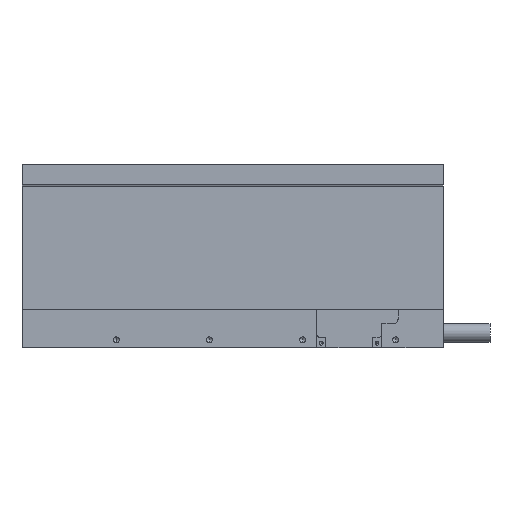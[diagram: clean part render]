
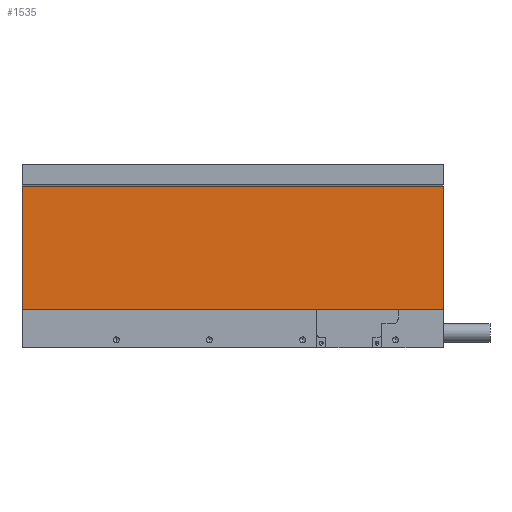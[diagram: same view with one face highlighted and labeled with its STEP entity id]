
A CAD part, left-side view. The second image highlights one B-rep face of the part: STEP entity #1535.
In plain terms, the highlighted planar face has unit normal (-1, 0, 0).
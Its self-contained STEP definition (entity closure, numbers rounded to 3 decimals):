
#12 = PLANE ( 'NONE',  #1249 ) ;
#71 = CARTESIAN_POINT ( 'NONE',  ( -3.6, 181., -62.6 ) ) ;
#84 = LINE ( 'NONE', #3300, #2502 ) ;
#173 = ORIENTED_EDGE ( 'NONE', *, *, #1194, .F. ) ;
#192 = VECTOR ( 'NONE', #2092, 1000. ) ;
#390 = CARTESIAN_POINT ( 'NONE',  ( -3.6, 181., -62.6 ) ) ;
#530 = DIRECTION ( 'NONE',  ( 0., -1., 0. ) ) ;
#641 = DIRECTION ( 'NONE',  ( 1., 0., 0. ) ) ;
#1194 = EDGE_CURVE ( 'NONE', #2426, #2874, #3960, .T. ) ;
#1203 = DIRECTION ( 'NONE',  ( 0., 0., -1. ) ) ;
#1249 = AXIS2_PLACEMENT_3D ( 'NONE', #2457, #641, #1203 ) ;
#1314 = DIRECTION ( 'NONE',  ( 0., -1., 0. ) ) ;
#1535 = ADVANCED_FACE ( 'NONE', ( #2166 ), #12, .F. ) ;
#1543 = VERTEX_POINT ( 'NONE', #1843 ) ;
#1727 = EDGE_CURVE ( 'NONE', #2426, #2639, #2840, .T. ) ;
#1734 = CARTESIAN_POINT ( 'NONE',  ( -3.6, 0., -62.6 ) ) ;
#1835 = LINE ( 'NONE', #1734, #192 ) ;
#1843 = CARTESIAN_POINT ( 'NONE',  ( -3.6, 0., -9.5 ) ) ;
#1949 = EDGE_CURVE ( 'NONE', #2874, #1543, #84, .T. ) ;
#2012 = EDGE_LOOP ( 'NONE', ( #3831, #3037, #173, #2578 ) ) ;
#2092 = DIRECTION ( 'NONE',  ( 0., 0., 1. ) ) ;
#2166 = FACE_OUTER_BOUND ( 'NONE', #2012, .T. ) ;
#2426 = VERTEX_POINT ( 'NONE', #2852 ) ;
#2453 = VECTOR ( 'NONE', #1314, 1000. ) ;
#2457 = CARTESIAN_POINT ( 'NONE',  ( -3.6, 181., -62.6 ) ) ;
#2502 = VECTOR ( 'NONE', #530, 1000. ) ;
#2578 = ORIENTED_EDGE ( 'NONE', *, *, #1727, .T. ) ;
#2639 = VERTEX_POINT ( 'NONE', #3902 ) ;
#2814 = CARTESIAN_POINT ( 'NONE',  ( -3.6, 181., -9.5 ) ) ;
#2840 = LINE ( 'NONE', #390, #2453 ) ;
#2852 = CARTESIAN_POINT ( 'NONE',  ( -3.6, 181., -62.6 ) ) ;
#2874 = VERTEX_POINT ( 'NONE', #2814 ) ;
#3037 = ORIENTED_EDGE ( 'NONE', *, *, #1949, .F. ) ;
#3145 = VECTOR ( 'NONE', #3748, 1000. ) ;
#3300 = CARTESIAN_POINT ( 'NONE',  ( -3.6, 181., -9.5 ) ) ;
#3748 = DIRECTION ( 'NONE',  ( 0., 0., 1. ) ) ;
#3811 = EDGE_CURVE ( 'NONE', #2639, #1543, #1835, .T. ) ;
#3831 = ORIENTED_EDGE ( 'NONE', *, *, #3811, .T. ) ;
#3902 = CARTESIAN_POINT ( 'NONE',  ( -3.6, 0., -62.6 ) ) ;
#3960 = LINE ( 'NONE', #71, #3145 ) ;
